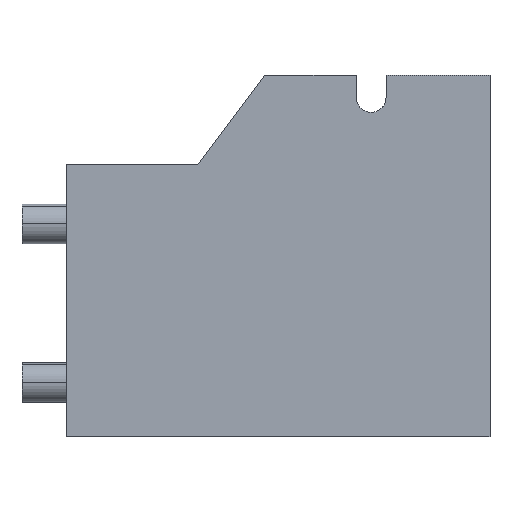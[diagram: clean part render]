
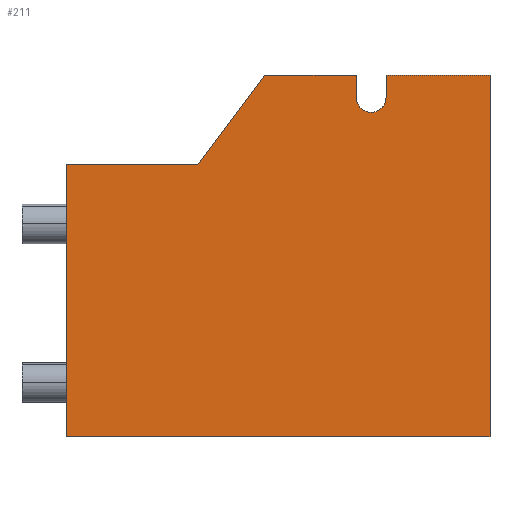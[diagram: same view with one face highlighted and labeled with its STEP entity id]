
A CAD part, left-side view. The second image highlights one B-rep face of the part: STEP entity #211.
In plain terms, the highlighted planar face has unit normal (-1, 0, 0).
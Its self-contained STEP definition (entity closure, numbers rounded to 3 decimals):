
#211=ADVANCED_FACE('Pad.1',(#478),#479,.F.);
#478=FACE_OUTER_BOUND('',#844,.T.);
#479=PLANE('',#845);
#844=EDGE_LOOP('',(#1289,#1290,#1291,#1292,#1293,#1294,#1295,#1296,#1297,#1298));
#845=AXIS2_PLACEMENT_3D('',#1299,#1300,#1301);
#1289=ORIENTED_EDGE('',*,*,#2153,.F.);
#1290=ORIENTED_EDGE('',*,*,#2154,.T.);
#1291=ORIENTED_EDGE('',*,*,#2155,.T.);
#1292=ORIENTED_EDGE('',*,*,#2156,.T.);
#1293=ORIENTED_EDGE('',*,*,#2157,.F.);
#1294=ORIENTED_EDGE('',*,*,#2149,.F.);
#1295=ORIENTED_EDGE('',*,*,#2158,.F.);
#1296=ORIENTED_EDGE('',*,*,#2159,.T.);
#1297=ORIENTED_EDGE('',*,*,#2160,.F.);
#1298=ORIENTED_EDGE('',*,*,#2161,.F.);
#1299=CARTESIAN_POINT('',(-25.0,0.0,0.0));
#1300=DIRECTION('',(1.0,0.0,0.0));
#1301=DIRECTION('',(0.0,1.0,0.0));
#2149=EDGE_CURVE('',#2580,#2582,#2583,.F.);
#2153=EDGE_CURVE('',#2588,#2589,#2590,.T.);
#2154=EDGE_CURVE('',#2588,#2591,#2592,.F.);
#2155=EDGE_CURVE('',#2591,#2593,#2594,.T.);
#2156=EDGE_CURVE('',#2593,#2595,#2596,.T.);
#2157=EDGE_CURVE('',#2582,#2595,#2597,.T.);
#2158=EDGE_CURVE('',#2598,#2580,#2599,.F.);
#2159=EDGE_CURVE('',#2598,#2600,#2601,.F.);
#2160=EDGE_CURVE('',#2602,#2600,#2603,.T.);
#2161=EDGE_CURVE('',#2589,#2602,#2604,.T.);
#2580=VERTEX_POINT('',#3185);
#2582=VERTEX_POINT('',#3188);
#2583=LINE('',#3189,#3190);
#2588=VERTEX_POINT('',#3197);
#2589=VERTEX_POINT('',#3198);
#2590=LINE('',#3199,#3200);
#2591=VERTEX_POINT('',#3201);
#2592=LINE('',#3202,#3203);
#2593=VERTEX_POINT('',#3204);
#2594=CIRCLE('',#3205,3.0);
#2595=VERTEX_POINT('',#3206);
#2596=LINE('',#3207,#3208);
#2597=LINE('',#3209,#3210);
#2598=VERTEX_POINT('',#3211);
#2599=LINE('',#3212,#3213);
#2600=VERTEX_POINT('',#3214);
#2601=LINE('',#3215,#3216);
#2602=VERTEX_POINT('',#3217);
#2603=LINE('',#3218,#3219);
#2604=LINE('',#3220,#3221);
#3185=CARTESIAN_POINT('',(-25.0,35.0,-2.0));
#3188=CARTESIAN_POINT('',(-25.0,21.5,16.0));
#3189=CARTESIAN_POINT('',(-25.0,28.25,7.0));
#3190=VECTOR('',#3827,1.0);
#3197=CARTESIAN_POINT('',(-25.0,-3.0,16.0));
#3198=CARTESIAN_POINT('',(-25.0,-24.0,16.0));
#3199=CARTESIAN_POINT('',(-25.0,-13.5,16.0));
#3200=VECTOR('',#3830,1.0);
#3201=CARTESIAN_POINT('',(-25.0,-3.0,11.5));
#3202=CARTESIAN_POINT('',(-25.0,-3.,13.75));
#3203=VECTOR('',#3831,1.0);
#3204=CARTESIAN_POINT('',(-25.0,3.0,11.5));
#3205=AXIS2_PLACEMENT_3D('',#3832,#3833,#3834);
#3206=CARTESIAN_POINT('',(-25.0,3.0,16.0));
#3207=CARTESIAN_POINT('',(-25.0,3.0,13.75));
#3208=VECTOR('',#3835,1.0);
#3209=CARTESIAN_POINT('',(-25.0,12.25,16.0));
#3210=VECTOR('',#3836,1.0);
#3211=CARTESIAN_POINT('',(-25.0,61.5,-2.0));
#3212=CARTESIAN_POINT('',(-25.0,48.25,-2.0));
#3213=VECTOR('',#3837,1.0);
#3214=CARTESIAN_POINT('',(-25.0,61.5,-57.0));
#3215=CARTESIAN_POINT('',(-25.0,61.5,-29.5));
#3216=VECTOR('',#3838,1.0);
#3217=CARTESIAN_POINT('',(-25.0,-24.0,-57.0));
#3218=CARTESIAN_POINT('',(-25.0,18.75,-57.0));
#3219=VECTOR('',#3839,1.0);
#3220=CARTESIAN_POINT('',(-25.0,-24.0,-20.5));
#3221=VECTOR('',#3840,1.0);
#3827=DIRECTION('',(0.0,0.6,-0.8));
#3830=DIRECTION('',(0.0,-1.0,0.0));
#3831=DIRECTION('',(0.0,0.0,1.0));
#3832=CARTESIAN_POINT('',(-25.0,0.,11.5));
#3833=DIRECTION('',(1.0,0.0,0.0));
#3834=DIRECTION('',(0.0,1.0,0.0));
#3835=DIRECTION('',(0.0,0.0,1.0));
#3836=DIRECTION('',(0.0,-1.0,0.0));
#3837=DIRECTION('',(0.0,1.0,0.0));
#3838=DIRECTION('',(0.0,0.0,1.0));
#3839=DIRECTION('',(0.0,1.0,0.0));
#3840=DIRECTION('',(0.0,0.0,-1.0));
